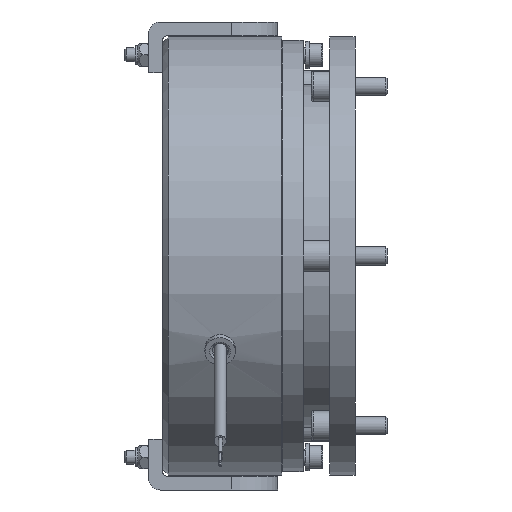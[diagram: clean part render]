
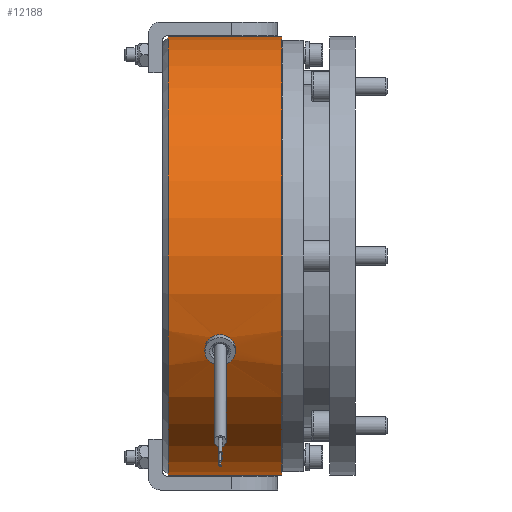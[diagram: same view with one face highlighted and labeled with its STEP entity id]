
A CAD part, front view. The second image highlights one B-rep face of the part: STEP entity #12188.
In plain terms, the highlighted cylindrical face has radius 95 mm (diameter 190 mm), a full revolution.
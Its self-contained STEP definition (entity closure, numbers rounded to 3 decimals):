
#191=B_SPLINE_CURVE_WITH_KNOTS('',3,(#21387,#21388,#21389,#21390,#21391,
#21392,#21393,#21394,#21395,#21396,#21397,#21398,#21399,#21400,#21401,#21402,
#21403,#21404,#21405),.UNSPECIFIED.,.F.,.F.,(4,2,2,2,3,2,2,2,4),(2.348,
2.544,2.74,2.935,3.131,3.326,
3.522,3.718,3.913),.UNSPECIFIED.);
#192=B_SPLINE_CURVE_WITH_KNOTS('',3,(#21408,#21409,#21410,#21411,#21412,
#21413,#21414,#21415,#21416,#21417,#21418,#21419,#21420,#21421,#21422,#21423,
#21424,#21425),.UNSPECIFIED.,.F.,.F.,(4,2,2,2,2,2,2,2,4),(0.783,
0.978,1.174,1.37,1.565,1.761,
1.957,2.152,2.348),.UNSPECIFIED.);
#532=CYLINDRICAL_SURFACE('',#13350,95.);
#860=FACE_BOUND('',#2767,.T.);
#1400=CIRCLE('',#13351,95.);
#1401=CIRCLE('',#13352,95.);
#1402=CIRCLE('',#13353,95.);
#1403=CIRCLE('',#13354,95.);
#2078=FACE_OUTER_BOUND('',#2766,.T.);
#2766=EDGE_LOOP('',(#9495,#9496,#9497,#9498,#9499,#9500));
#2767=EDGE_LOOP('',(#9501,#9502,#9503,#9504,#9505,#9506));
#3386=LINE('',#24137,#3958);
#3387=LINE('',#24141,#3959);
#3388=LINE('',#24142,#3960);
#3958=VECTOR('',#16004,95.);
#3959=VECTOR('',#16009,10.);
#3960=VECTOR('',#16010,10.);
#4709=VERTEX_POINT('',#21385);
#4710=VERTEX_POINT('',#21386);
#4711=VERTEX_POINT('',#21428);
#4712=VERTEX_POINT('',#21430);
#5080=VERTEX_POINT('',#24132);
#5081=VERTEX_POINT('',#24133);
#5082=VERTEX_POINT('',#24136);
#5083=VERTEX_POINT('',#24138);
#6103=EDGE_CURVE('',#4709,#4710,#191,.T.);
#6105=EDGE_CURVE('',#4710,#4709,#192,.T.);
#6649=EDGE_CURVE('',#5080,#5081,#1400,.T.);
#6650=EDGE_CURVE('',#5081,#5080,#1401,.T.);
#6651=EDGE_CURVE('',#5081,#5082,#3386,.T.);
#6652=EDGE_CURVE('',#5083,#5082,#1402,.T.);
#6653=EDGE_CURVE('',#5082,#5083,#1403,.T.);
#6654=EDGE_CURVE('',#4709,#4711,#3387,.T.);
#6655=EDGE_CURVE('',#4710,#4712,#3388,.T.);
#9495=ORIENTED_EDGE('',*,*,#6649,.F.);
#9496=ORIENTED_EDGE('',*,*,#6650,.F.);
#9497=ORIENTED_EDGE('',*,*,#6651,.T.);
#9498=ORIENTED_EDGE('',*,*,#6652,.F.);
#9499=ORIENTED_EDGE('',*,*,#6653,.F.);
#9500=ORIENTED_EDGE('',*,*,#6651,.F.);
#9501=ORIENTED_EDGE('',*,*,#6654,.T.);
#9502=ORIENTED_EDGE('',*,*,#6654,.F.);
#9503=ORIENTED_EDGE('',*,*,#6103,.T.);
#9504=ORIENTED_EDGE('',*,*,#6655,.T.);
#9505=ORIENTED_EDGE('',*,*,#6655,.F.);
#9506=ORIENTED_EDGE('',*,*,#6105,.T.);
#12188=ADVANCED_FACE('',(#2078,#860),#532,.T.);
#13350=AXIS2_PLACEMENT_3D('',#24131,#15998,#15999);
#13351=AXIS2_PLACEMENT_3D('',#24134,#16000,#16001);
#13352=AXIS2_PLACEMENT_3D('',#24135,#16002,#16003);
#13353=AXIS2_PLACEMENT_3D('',#24139,#16005,#16006);
#13354=AXIS2_PLACEMENT_3D('',#24140,#16007,#16008);
#15998=DIRECTION('center_axis',(1.,0.,0.));
#15999=DIRECTION('ref_axis',(0.,1.,0.));
#16000=DIRECTION('center_axis',(1.,0.,0.));
#16001=DIRECTION('ref_axis',(0.,1.,0.));
#16002=DIRECTION('center_axis',(1.,0.,0.));
#16003=DIRECTION('ref_axis',(0.,1.,0.));
#16004=DIRECTION('',(-1.,0.,0.));
#16005=DIRECTION('center_axis',(-1.,0.,0.));
#16006=DIRECTION('ref_axis',(0.,-1.,0.));
#16007=DIRECTION('center_axis',(-1.,0.,0.));
#16008=DIRECTION('ref_axis',(0.,-1.,0.));
#16009=DIRECTION('',(-1.,0.,0.));
#16010=DIRECTION('',(1.,0.,0.));
#21385=CARTESIAN_POINT('',(-31.9,-86.099,-40.149));
#21386=CARTESIAN_POINT('',(-21.5,-86.099,-40.149));
#21387=CARTESIAN_POINT('Ctrl Pts',(-31.9,-86.099,
-40.149));
#21388=CARTESIAN_POINT('Ctrl Pts',(-31.9,-86.375,
-39.557));
#21389=CARTESIAN_POINT('Ctrl Pts',(-31.769,-86.662,-38.924));
#21390=CARTESIAN_POINT('Ctrl Pts',(-31.237,-87.178,
-37.753));
#21391=CARTESIAN_POINT('Ctrl Pts',(-30.836,-87.408,
-37.217));
#21392=CARTESIAN_POINT('Ctrl Pts',(-29.912,-87.764,
-36.368));
#21393=CARTESIAN_POINT('Ctrl Pts',(-29.328,-87.916,
-35.999));
#21394=CARTESIAN_POINT('Ctrl Pts',(-28.048,-88.115,
-35.509));
#21395=CARTESIAN_POINT('Ctrl Pts',(-27.352,-88.163,
-35.388));
#21396=CARTESIAN_POINT('Ctrl Pts',(-26.7,-88.163,-35.388));
#21397=CARTESIAN_POINT('Ctrl Pts',(-26.048,-88.163,
-35.388));
#21398=CARTESIAN_POINT('Ctrl Pts',(-25.352,-88.115,
-35.509));
#21399=CARTESIAN_POINT('Ctrl Pts',(-24.072,-87.916,
-35.999));
#21400=CARTESIAN_POINT('Ctrl Pts',(-23.488,-87.764,
-36.368));
#21401=CARTESIAN_POINT('Ctrl Pts',(-22.564,-87.408,
-37.217));
#21402=CARTESIAN_POINT('Ctrl Pts',(-22.163,-87.178,
-37.753));
#21403=CARTESIAN_POINT('Ctrl Pts',(-21.631,-86.662,-38.924));
#21404=CARTESIAN_POINT('Ctrl Pts',(-21.5,-86.375,-39.557));
#21405=CARTESIAN_POINT('Ctrl Pts',(-21.5,-86.099,-40.149));
#21408=CARTESIAN_POINT('Ctrl Pts',(-21.5,-86.099,-40.149));
#21409=CARTESIAN_POINT('Ctrl Pts',(-21.5,-85.824,-40.74));
#21410=CARTESIAN_POINT('Ctrl Pts',(-21.631,-85.523,
-41.367));
#21411=CARTESIAN_POINT('Ctrl Pts',(-22.163,-84.958,
-42.515));
#21412=CARTESIAN_POINT('Ctrl Pts',(-22.564,-84.694,
-43.036));
#21413=CARTESIAN_POINT('Ctrl Pts',(-23.488,-84.273,
-43.855));
#21414=CARTESIAN_POINT('Ctrl Pts',(-24.072,-84.088,
-44.208));
#21415=CARTESIAN_POINT('Ctrl Pts',(-25.352,-83.84,
-44.675));
#21416=CARTESIAN_POINT('Ctrl Pts',(-26.048,-83.779,
-44.79));
#21417=CARTESIAN_POINT('Ctrl Pts',(-27.352,-83.779,
-44.79));
#21418=CARTESIAN_POINT('Ctrl Pts',(-28.048,-83.84,
-44.675));
#21419=CARTESIAN_POINT('Ctrl Pts',(-29.328,-84.088,
-44.208));
#21420=CARTESIAN_POINT('Ctrl Pts',(-29.912,-84.273,
-43.855));
#21421=CARTESIAN_POINT('Ctrl Pts',(-30.836,-84.694,
-43.036));
#21422=CARTESIAN_POINT('Ctrl Pts',(-31.237,-84.958,
-42.515));
#21423=CARTESIAN_POINT('Ctrl Pts',(-31.769,-85.523,
-41.367));
#21424=CARTESIAN_POINT('Ctrl Pts',(-31.9,-85.824,-40.74));
#21425=CARTESIAN_POINT('Ctrl Pts',(-31.9,-86.099,-40.149));
#21428=CARTESIAN_POINT('',(-33.3,-86.099,-40.149));
#21430=CARTESIAN_POINT('',(-20.1,-86.099,-40.149));
#24131=CARTESIAN_POINT('Origin',(-25.85,0.,0.));
#24132=CARTESIAN_POINT('',(0.,0.,95.));
#24133=CARTESIAN_POINT('',(0.,-95.,0.));
#24134=CARTESIAN_POINT('Origin',(0.,0.,0.));
#24135=CARTESIAN_POINT('Origin',(0.,0.,0.));
#24136=CARTESIAN_POINT('',(-49.2,-95.,0.));
#24137=CARTESIAN_POINT('',(-25.85,-95.,0.));
#24138=CARTESIAN_POINT('',(-49.2,95.,0.));
#24139=CARTESIAN_POINT('Origin',(-49.2,0.,0.));
#24140=CARTESIAN_POINT('Origin',(-49.2,0.,0.));
#24141=CARTESIAN_POINT('',(0.,-86.099,-40.149));
#24142=CARTESIAN_POINT('',(-25.85,-86.099,-40.149));
